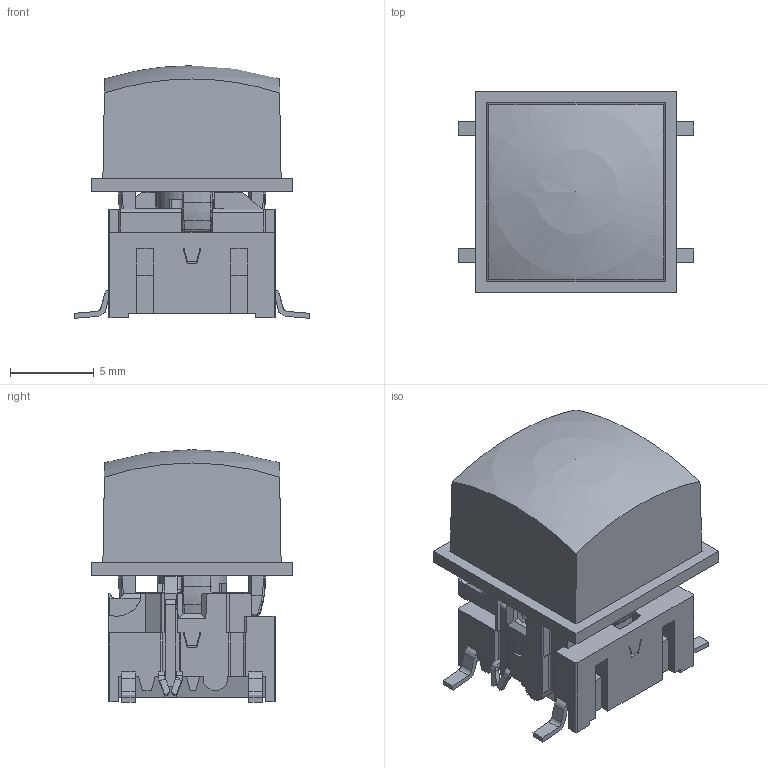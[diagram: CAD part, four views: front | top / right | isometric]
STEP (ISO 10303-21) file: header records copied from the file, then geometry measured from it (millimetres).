
FILE_DESCRIPTION(/* description */ (''),/* implementation_level */ '2;1');
FILE_NAME(/* name */ 'C:\Users\cgh.MEC\Desktop\Traceparts - 3D programserie\STEP filer\il-SMD\5GSH9xxxxxxx+1TS.stp',/* time_stamp */ '2016-03-01T09:35:28+01:00',/* author */ ('cgh'),/* organization */ (''),/* preprocessor_version */ 'ST-DEVELOPER v15.2',/* originating_system */ 'Autodesk Inventor 2014',/* authorisation */ '');
FILE_SCHEMA (('AUTOMOTIVE_DESIGN { 1 0 10303 214 3 1 1 }'));
Length unit declared in the file: centimetre
Products named in the file (1): cgh
Bounding box: 14.05 x 12.06 x 15.1 mm (x, y, z)
Volume: 904.3 mm3; surface area: 2007.3 mm2
Topology: 1 solids, 1 shells, 1354 faces, 3827 edges, 2495 vertices
Faces by surface type: plane 848, cylinder 225, bspline 164, torus 64, cone 42, sphere 11
Full cylindrical faces by diameter (mm): 0.9 x1, 1 x3, 2.8 x1, 4.73 x1, 6.5 x1, 7.2 x1, 7.44 x1
Entity records: 48454 total; most frequent: CARTESIAN_POINT 13035, ORIENTED_EDGE 7584, DIRECTION 6396, EDGE_CURVE 3784, VERTEX_POINT 2481, LINE 2440, VECTOR 2440, AXIS2_PLACEMENT_3D 1978
